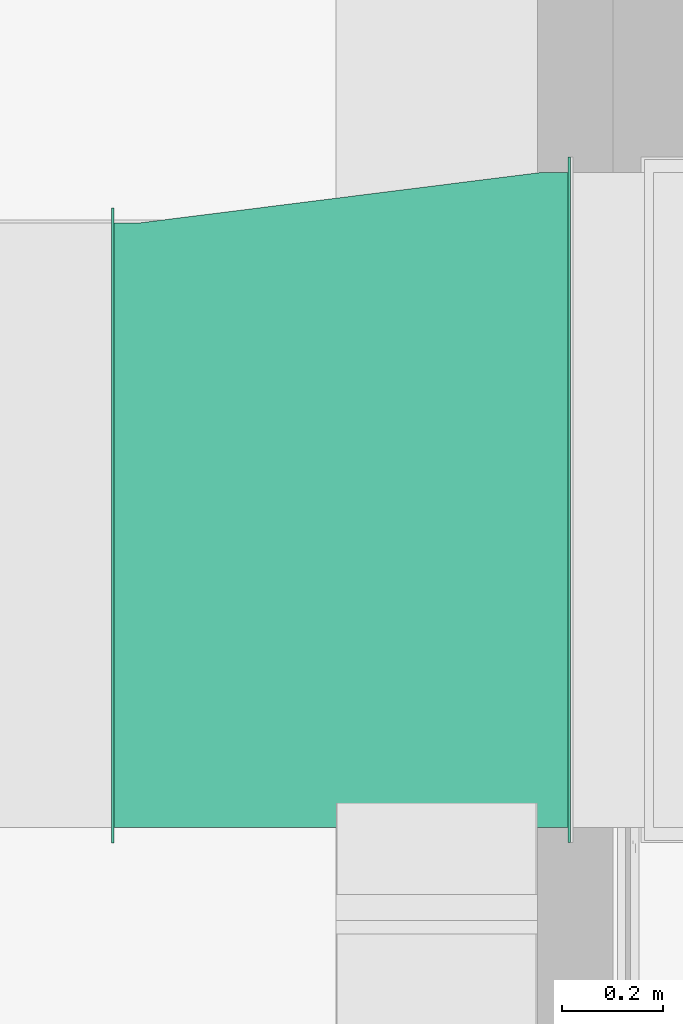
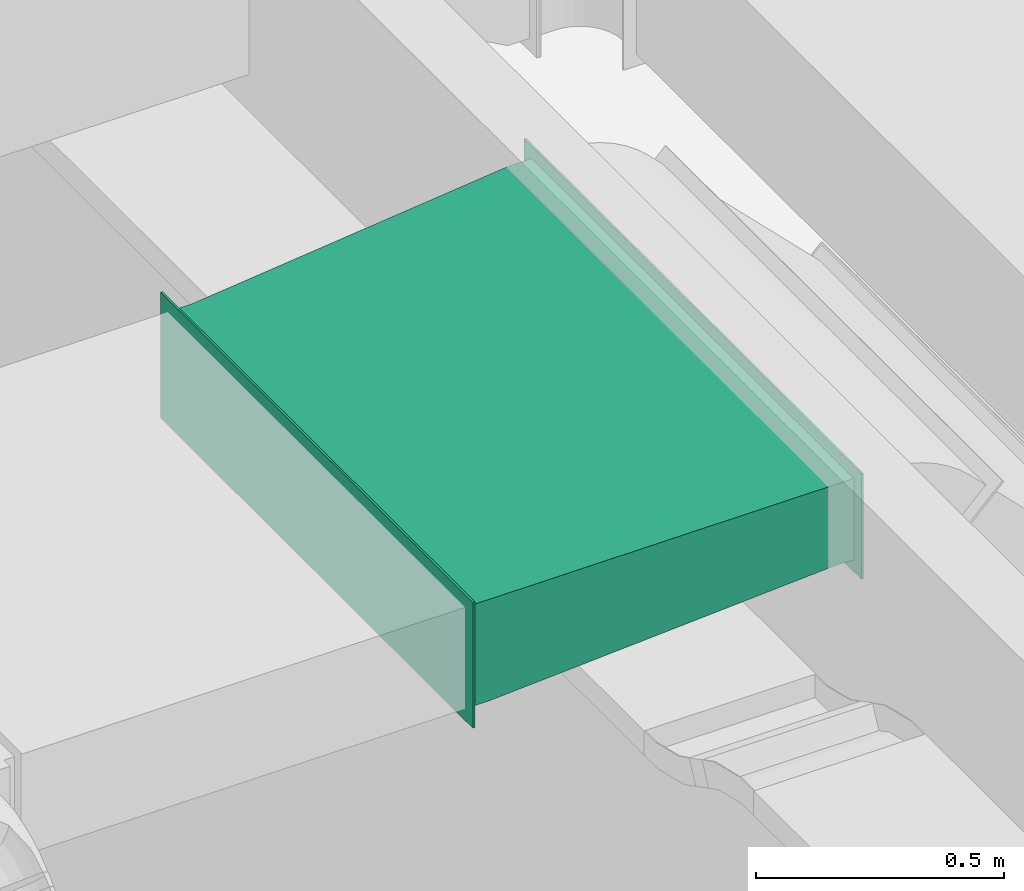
# One storey, part 286 of 302: 1 flow fitting.
"""IFC2X3 building model written with IfcOpenShell, lengths in metres."""

from ifc_helpers import new_model, entity, si_unit, converted_unit, derived_unit, direction, frame, origin, place, context, subcontext, project, spatial, faceted_brep, source, transform, mapped, material, type_object, type_shapes, element, save


model = new_model("IFC2X3")

# Units and contexts
model_context = context("Model", 3, precision=1e-05, world=origin(), true_north=direction((6.12303176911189e-17, 1.0)))
body_context = subcontext(model_context, "Body", "Model", "MODEL_VIEW")
ifc_project = project(units=[si_unit("LENGTHUNIT", "METRE"), si_unit("AREAUNIT", "SQUARE_METRE"), si_unit("VOLUMEUNIT", "CUBIC_METRE"), converted_unit("PLANEANGLEUNIT", "DEGREE", entity("IfcRatioMeasure", 0.0174532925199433), si_unit("PLANEANGLEUNIT", "RADIAN"), dimensions=[0, 0, 0, 0, 0, 0, 0]), si_unit("MASSUNIT", "GRAM", prefix="KILO"), derived_unit("MASSDENSITYUNIT", [(si_unit("MASSUNIT", "GRAM", prefix="KILO"), 1), (si_unit("LENGTHUNIT", "METRE"), -3)]), derived_unit("MOMENTOFINERTIAUNIT", [(si_unit("LENGTHUNIT", "METRE"), 4)]), si_unit("TIMEUNIT", "SECOND"), si_unit("FREQUENCYUNIT", "HERTZ"), si_unit("THERMODYNAMICTEMPERATUREUNIT", "DEGREE_CELSIUS"), derived_unit("THERMALTRANSMITTANCEUNIT", [(si_unit("MASSUNIT", "GRAM", prefix="KILO"), 1), (si_unit("THERMODYNAMICTEMPERATUREUNIT", "KELVIN"), -1), (si_unit("TIMEUNIT", "SECOND"), -3)]), derived_unit("VOLUMETRICFLOWRATEUNIT", [(si_unit("LENGTHUNIT", "METRE"), 3), (si_unit("TIMEUNIT", "SECOND"), -1)]), si_unit("ELECTRICCURRENTUNIT", "AMPERE"), si_unit("ELECTRICVOLTAGEUNIT", "VOLT"), si_unit("POWERUNIT", "WATT"), si_unit("FORCEUNIT", "NEWTON", prefix="KILO"), si_unit("ILLUMINANCEUNIT", "LUX"), si_unit("LUMINOUSFLUXUNIT", "LUMEN"), si_unit("LUMINOUSINTENSITYUNIT", "CANDELA"), derived_unit("USERDEFINED", [(si_unit("MASSUNIT", "GRAM", prefix="KILO"), -1), (si_unit("LENGTHUNIT", "METRE"), -2), (si_unit("TIMEUNIT", "SECOND"), 3), (si_unit("LUMINOUSFLUXUNIT", "LUMEN"), 1)]), derived_unit("LINEARVELOCITYUNIT", [(si_unit("LENGTHUNIT", "METRE"), 1), (si_unit("TIMEUNIT", "SECOND"), -1)]), si_unit("PRESSUREUNIT", "PASCAL"), derived_unit("USERDEFINED", [(si_unit("LENGTHUNIT", "METRE"), -2), (si_unit("MASSUNIT", "GRAM", prefix="KILO"), 1), (si_unit("TIMEUNIT", "SECOND"), -2)]), derived_unit("LINEARFORCEUNIT", [(si_unit("MASSUNIT", "GRAM", prefix="KILO"), 1), (si_unit("LENGTHUNIT", "METRE"), 1), (si_unit("TIMEUNIT", "SECOND"), -2), (si_unit("LENGTHUNIT", "METRE"), -1)]), derived_unit("PLANARFORCEUNIT", [(si_unit("MASSUNIT", "GRAM", prefix="KILO"), 1), (si_unit("LENGTHUNIT", "METRE"), 1), (si_unit("TIMEUNIT", "SECOND"), -2), (si_unit("LENGTHUNIT", "METRE"), -2)])], contexts=[model_context])

# Site, building, storey
site_placement = place(None, origin())
site = spatial("IfcSite", under=ifc_project, at=site_placement, Name="Default", CompositionType="ELEMENT")
building_placement = place(site_placement, origin())
building = spatial("IfcBuilding", under=site, at=building_placement, CompositionType="ELEMENT")
storey_placement = place(building_placement, frame((0.0, 0.0, -1.3)))
storey = spatial("IfcBuildingStorey", under=building, at=storey_placement, Name="00_EG", CompositionType="ELEMENT", Elevation=-1.3)

# Flow fitting
ifc_material = material(Name="<Unnamed>")
duct_fitting_type = type_object("IfcDuctFittingType", Name="Übergang rechteck rechteck US:Standard", PredefinedType="NOTDEFINED", material=ifc_material)
shared_shape = source(origin(), body_context, "Body", "Brep", [
    faceted_brep([(0.854999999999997, 0.65052987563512, 0.100000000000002), (0.854999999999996, 0.65052987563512, -0.149999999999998), (0.854999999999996, -0.54947012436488, -0.149999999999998), (0.854999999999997, -0.54947012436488, 0.100000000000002), (0.909999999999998, 0.65052987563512, 0.100000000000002), (0.909999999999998, -0.54947012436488, 0.100000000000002), (0.909999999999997, -0.54947012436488, -0.149999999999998), (0.909999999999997, 0.65052987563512, -0.149999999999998)], [[[0, 1, 2, 3]], [[4, 5, 6, 7]], [[1, 0, 4, 7]], [[2, 1, 7, 6]], [[3, 2, 6, 5]], [[0, 3, 5, 4]]]),
    faceted_brep([(0.855000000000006, 0.65052987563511, 0.1), (0.855000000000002, -0.54947012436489, 0.1), (0.855000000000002, -0.54947012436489, -0.15), (0.855000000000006, 0.65052987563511, -0.15), (0.0550000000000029, 0.65, 0.1), (0.0550000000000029, 0.65, -0.1), (0.0549999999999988, -0.649999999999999, -0.1), (0.0549999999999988, -0.649999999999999, 0.1)], [[[0, 1, 2, 3]], [[4, 5, 6, 7]], [[5, 4, 0, 3]], [[4, 7, 1, 0]], [[7, 6, 2, 1]], [[6, 5, 3, 2]]]),
    faceted_brep([(0.0, 0.65, 0.1), (0.0, 0.65, -0.1), (0.0, -0.649999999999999, -0.1), (0.0, -0.649999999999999, 0.1), (0.0550000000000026, 0.65, 0.1), (0.0549999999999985, -0.65, 0.1), (0.0549999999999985, -0.65, -0.1), (0.0550000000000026, 0.65, -0.1)], [[[0, 1, 2, 3]], [[4, 5, 6, 7]], [[1, 0, 4, 7]], [[2, 1, 7, 6]], [[3, 2, 6, 5]], [[0, 3, 5, 4]]]),
    faceted_brep([(0.904999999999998, 0.68052987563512, 0.130000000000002), (0.904999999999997, 0.68052987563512, -0.179999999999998), (0.904999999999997, -0.57947012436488, -0.179999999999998), (0.904999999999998, -0.57947012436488, 0.130000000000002), (0.909999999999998, 0.68052987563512, 0.130000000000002), (0.909999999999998, -0.57947012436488, 0.130000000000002), (0.909999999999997, -0.57947012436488, -0.179999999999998), (0.909999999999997, 0.68052987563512, -0.179999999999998)], [[[0, 1, 2, 3]], [[4, 5, 6, 7]], [[1, 0, 4, 7]], [[2, 1, 7, 6]], [[3, 2, 6, 5]], [[0, 3, 5, 4]]]),
    faceted_brep([(0.0, 0.68, 0.13), (0.0, 0.68, -0.13), (0.0, -0.679999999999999, -0.13), (0.0, -0.679999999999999, 0.13), (0.0050000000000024, 0.68, 0.13), (0.0049999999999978, -0.679999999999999, 0.13), (0.0049999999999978, -0.679999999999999, -0.13), (0.0050000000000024, 0.68, -0.13)], [[[0, 1, 2, 3]], [[4, 5, 6, 7]], [[1, 0, 4, 7]], [[2, 1, 7, 6]], [[3, 2, 6, 5]], [[0, 3, 5, 4]]]),
])
type_shapes(duct_fitting_type, [shared_shape])
flow_fitting_placement = place(storey_placement, frame((-219.819828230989, 22.2723454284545, 5.15), z_axis=(0.0, 0.0, 1.0), x_axis=(-1.0, 0.0, 0.0)))
element("IfcFlowFitting", 1, at=flow_fitting_placement, inside=storey, type_object=duct_fitting_type, material=ifc_material, Name="Übergang rechteck rechteck US:Standard", ObjectType="Übergang rechteck rechteck US:Standard", context=body_context, shape_type="MappedRepresentation", body=[
    mapped(shared_shape, transform((0.0, 0.0, 0.0), scale=1.0)),
])

save(model, "model.ifc")
